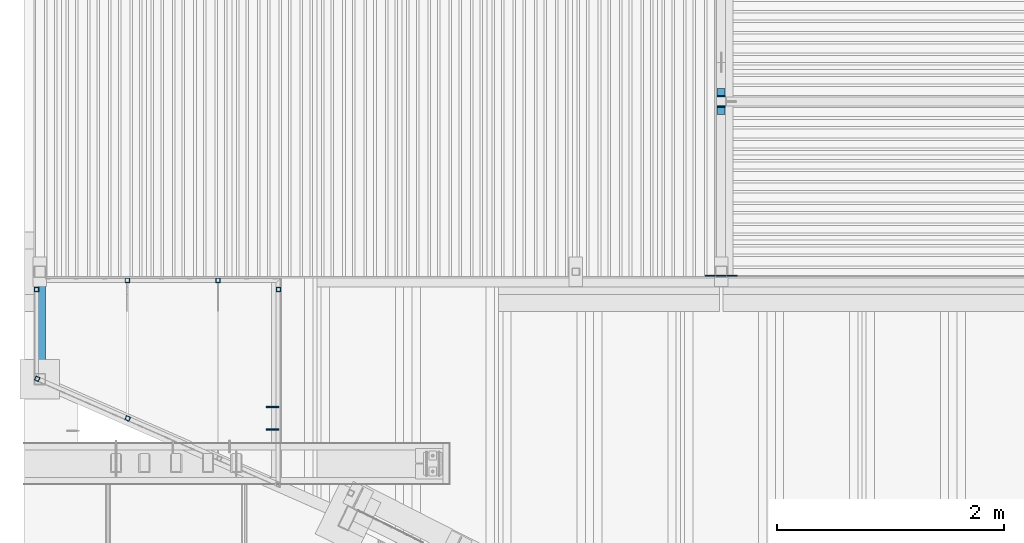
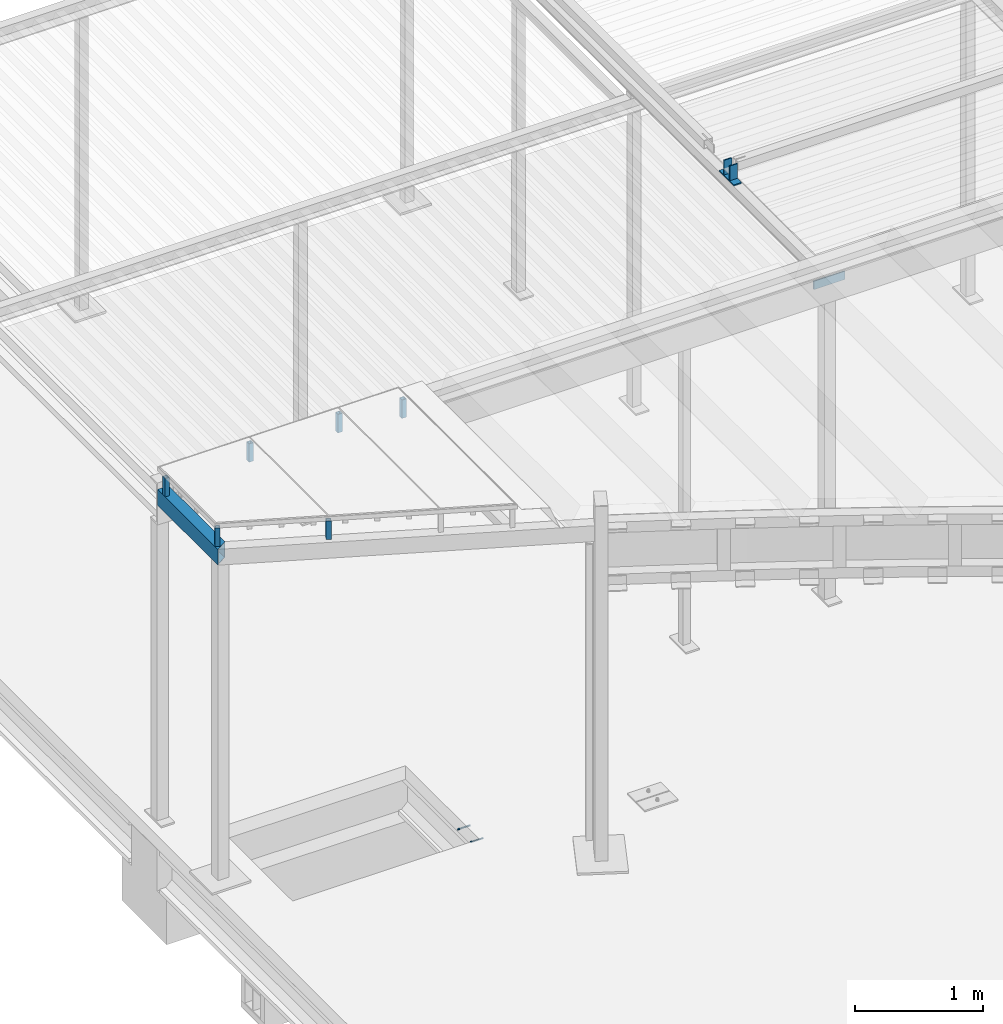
# One storey, part 28 of 98: 13 beams.
"""IFC2X3 building model written with IfcOpenShell, lengths in millimetres."""

from ifc_helpers import new_model, entity, si_unit, converted_unit, derived_unit, direction, frame, origin_with_axes, place, context, subcontext, project, spatial, faceted_brep, material, type_object, element, save


model = new_model("IFC2X3")

# Units and contexts
model_context = context("Model", 3, precision=0.01, world=frame((0.0, 4.29681676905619e-09, 0.0)), true_north=direction((4.01073788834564e-13, 1.0)))
plan_context = context("Plan", 3, precision=0.01, world=frame((0.0, 4.29681676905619e-09, 0.0)), true_north=direction((4.01073788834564e-13, 1.0)))
body_context = subcontext(model_context, "Body", "Model", "MODEL_VIEW")
ifc_project = project(units=[converted_unit("PLANEANGLEUNIT", "DEGREE", entity("IfcPositiveLengthMeasure", 0.0174532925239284), si_unit("PLANEANGLEUNIT", "RADIAN"), dimensions=[0, 0, 0, 0, 0, 0, 0]), si_unit("AREAUNIT", "SQUARE_METRE"), si_unit("LENGTHUNIT", "METRE", prefix="MILLI"), si_unit("MASSUNIT", "GRAM", prefix="KILO"), si_unit("POWERUNIT", "WATT"), si_unit("PRESSUREUNIT", "PASCAL"), si_unit("FORCEUNIT", "NEWTON", prefix="KILO"), si_unit("ELECTRICCURRENTUNIT", "AMPERE"), si_unit("THERMODYNAMICTEMPERATUREUNIT", "DEGREE_CELSIUS"), si_unit("TIMEUNIT", "SECOND"), si_unit("VOLUMEUNIT", "CUBIC_METRE"), derived_unit("LINEARVELOCITYUNIT", [(si_unit("LENGTHUNIT", "METRE"), 1), (si_unit("TIMEUNIT", "SECOND"), -1)]), derived_unit("VOLUMETRICFLOWRATEUNIT", [(si_unit("VOLUMEUNIT", "CUBIC_METRE"), 1), (si_unit("TIMEUNIT", "SECOND"), -1)]), derived_unit("THERMALTRANSMITTANCEUNIT", [(si_unit("POWERUNIT", "WATT"), 1), (si_unit("THERMODYNAMICTEMPERATUREUNIT", "KELVIN"), -1), (si_unit("AREAUNIT", "SQUARE_METRE"), -1)])], contexts=[model_context, plan_context])

# Site, building, storey
site_placement = place(None, frame((0.0, -4.29681676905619e-09, 0.0), z_axis=(0.0, 0.0, 1.0), x_axis=(1.0, 0.0, 0.0)))
site = spatial("IfcSite", under=ifc_project, at=site_placement, Name="Gardermoen", CompositionType="ELEMENT")
building_placement = place(site_placement, frame((0.0, 4.29681676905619e-09, 0.0), z_axis=(0.0, 0.0, 1.0), x_axis=(1.0, 0.0, 0.0)))
building = spatial("IfcBuilding", under=site, at=building_placement, Name="TS", CompositionType="ELEMENT")
storey_placement = place(building_placement, origin_with_axes())
storey = spatial("IfcBuildingStorey", under=building, at=storey_placement, Name="D", CompositionType="ELEMENT", Elevation=0.0)

# Beams
ifc_material = material(Name="STEEL/S355")
beam_type_1 = type_object("IfcBeamType", Name="PL10*70", PredefinedType="NOTDEFINED")
beam_1_placement = place(storey_placement, frame((519999.999847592, 415954.999738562, 207154.999928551), z_axis=(0.999999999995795, 0.0, 2.89999985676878e-06), x_axis=(2.89999985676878e-06, 0.0, -0.999999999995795)))
element("IfcBeam", 1, at=beam_1_placement, inside=storey, type_object=beam_type_1, material=ifc_material, Name="STÅLBJELKE", ObjectType="PL10*70", context=body_context, shape_type="Brep", body=[
    faceted_brep([(-2.3283064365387e-10, 5.0, -35.0), (2.3283064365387e-10, 5.0, 35.0000000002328), (139.999828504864, 5.0, 35.000000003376), (139.999828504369, 5.0, -34.9999999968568), (2.3283064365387e-10, -5.0, 35.0000000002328), (139.999828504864, -5.0, 35.000000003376), (-2.3283064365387e-10, -5.0, -35.0), (139.999828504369, -5.0, -34.9999999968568)], [[[0, 1, 2, 3]], [[1, 4, 5, 2]], [[4, 6, 7, 5]], [[6, 0, 3, 7]], [[5, 7, 3, 2]], [[6, 4, 1, 0]]]),
])
beam_2_placement = place(storey_placement, frame((520000.000074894, 415885.000270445, 207009.999925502), z_axis=(1.0, 0.0, 0.0), x_axis=(0.0, 1.0, 0.0)))
element("IfcBeam", 2, at=beam_2_placement, inside=storey, type_object=beam_type_1, material=ifc_material, Name="STÅLBJELKE", ObjectType="PL10*70", context=body_context, shape_type="Brep", body=[
    faceted_brep([(-2.3283064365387e-10, 5.0, -35.0), (2.3283064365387e-10, 5.0, 35.0000000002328), (229.999307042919, 5.0, 35.0000000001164), (229.999307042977, 5.0, -34.9999999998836), (2.3283064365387e-10, -5.0, 35.0000000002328), (229.999307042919, -5.0, 35.0000000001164), (-2.3283064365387e-10, -5.0, -35.0), (229.999307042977, -5.0, -34.9999999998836)], [[[0, 1, 2, 3]], [[1, 4, 5, 2]], [[4, 6, 7, 5]], [[6, 0, 3, 7]], [[5, 7, 3, 2]], [[6, 4, 1, 0]]]),
])
beam_3_placement = place(storey_placement, frame((519999.999847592, 416044.999738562, 207154.999929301), z_axis=(0.999999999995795, 0.0, 2.89999985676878e-06), x_axis=(2.89999985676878e-06, 0.0, -0.999999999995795)))
element("IfcBeam", 3, at=beam_3_placement, inside=storey, type_object=beam_type_1, material=ifc_material, Name="STÅLBJELKE", ObjectType="PL10*70", context=body_context, shape_type="Brep", body=[
    faceted_brep([(-2.3283064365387e-10, 5.0, -35.0), (2.3283064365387e-10, 5.0, 35.0000000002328), (139.999828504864, 5.0, 35.000000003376), (139.999828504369, 5.0, -34.9999999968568), (2.3283064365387e-10, -5.0, 35.0000000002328), (139.999828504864, -5.0, 35.000000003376), (-2.3283064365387e-10, -5.0, -35.0), (139.999828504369, -5.0, -34.9999999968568)], [[[0, 1, 2, 3]], [[1, 4, 5, 2]], [[4, 6, 7, 5]], [[6, 0, 3, 7]], [[5, 7, 3, 2]], [[6, 4, 1, 0]]]),
])
beam_type_2 = type_object("IfcBeamType", Name="D12", PredefinedType="NOTDEFINED")
for number, where, z_axis, x_axis in (
    (4, (515995.010346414, 413310.000023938, 203840.0), (0.0, -1.0, 0.0), (1.0, 0.0, 0.0)),
    (5, (515995.010346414, 413110.000023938, 203840.0), (0.0, -1.0, 0.0), (1.0, 0.0, 0.0)),
):
    element("IfcBeam", number, at=place(storey_placement, frame(where, z_axis=z_axis, x_axis=x_axis)), inside=storey, type_object=beam_type_2, material=ifc_material, Name="STÅLBJELKE", ObjectType="D12", context=body_context, shape_type="Brep", body=[
        faceted_brep([(-5.82076609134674e-11, -6.00000000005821, 0.0), (1.16415321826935e-10, -4.24264068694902, -4.24264068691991), (110.0, -4.24264068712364, -4.24264068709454), (110.0, -6.0, 0.0), (1.16415321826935e-10, 2.91038304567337e-10, -5.99999999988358), (110.0, 0.0, -6.0), (0.0, 4.24264068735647, -4.24264068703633), (110.0, 4.24264068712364, -4.24264068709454), (0.0, 5.99999999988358, 0.0), (110.0, 6.0, 0.0), (-2.3283064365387e-10, 4.2426406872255, 4.24264068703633), (110.0, 4.24264068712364, 4.24264068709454), (-3.49245965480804e-10, -5.82076609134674e-11, 5.99999999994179), (110.0, 0.0, 6.0), (-1.16415321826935e-10, -4.2426406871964, 4.24264068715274), (110.0, -4.24264068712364, 4.24264068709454)], [[[0, 1, 2, 3]], [[1, 4, 5, 2]], [[4, 6, 7, 5]], [[6, 8, 9, 7]], [[8, 10, 11, 9]], [[10, 12, 13, 11]], [[12, 14, 15, 13]], [[14, 0, 3, 15]], [[5, 7, 9, 11, 13, 15, 3, 2]], [[14, 12, 10, 8, 6, 4, 1, 0]]]),
    ])
beam_type_3 = type_object("IfcBeamType", Name="RHS40*4", PredefinedType="NOTDEFINED")
for number, where, z_axis, x_axis in (
    (6, (513969.998435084, 414344.981078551, 207100.0), (-0.999999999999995, -9.99999902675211e-08, 0.0), (0.0, 0.0, 1.0)),
    (7, (514773.373233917, 413208.229315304, 207100.0), (-0.913453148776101, 0.406943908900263, 0.0), (0.0, 0.0, 1.0)),
    (8, (516099.983186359, 414344.981078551, 207100.001742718), (-0.999999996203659, 0.0, 8.71359999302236e-05), (8.71359999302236e-05, 0.0, 0.999999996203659)),
    (9, (515569.998435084, 414424.981078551, 207100.0), (-0.999999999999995, -9.99999902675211e-08, 0.0), (0.0, 0.0, 1.0)),
    (10, (514769.998435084, 414424.981078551, 207100.0), (-0.999999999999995, -9.99999902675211e-08, 0.0), (0.0, 0.0, 1.0)),
    (11, (513976.314526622, 413557.170090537, 207100.0), (-0.913453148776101, 0.406943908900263, 0.0), (0.0, 0.0, 1.0)),
):
    element("IfcBeam", number, at=place(storey_placement, frame(where, z_axis=z_axis, x_axis=x_axis)), inside=storey, type_object=beam_type_3, material=ifc_material, Name="STÅLBJELKE", ObjectType="RHS40*4", context=body_context, shape_type="Brep", body=[
        faceted_brep([(0.0, 16.0, -16.0), (0.0, -16.0000000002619, -16.0000000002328), (175.0, -16.0, -16.0), (175.0, 16.0, -16.0), (0.0, -15.999999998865, 16.0), (175.0, -16.0, 16.0), (0.0, 16.0000000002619, 16.0000000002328), (175.0, 16.0, 16.0), (0.0, 20.0, -20.0), (0.0, 20.0, 20.0), (175.0, 20.0, 20.0), (175.0, 20.0, -20.0), (0.0, -19.9999999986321, 20.0), (175.0, -20.0, 20.0), (0.0, -20.0, -20.0), (175.0, -20.0, -20.0)], [[[0, 1, 2, 3]], [[1, 4, 5, 2]], [[4, 6, 7, 5]], [[6, 0, 3, 7]], [[8, 9, 10, 11]], [[9, 12, 13, 10]], [[12, 14, 15, 13]], [[14, 8, 11, 15]], [[13, 15, 11, 10], [5, 7, 3, 2]], [[14, 12, 9, 8], [6, 4, 1, 0]]]),
    ])
beam_type_4 = type_object("IfcBeamType", Name="PL80*10", PredefinedType="NOTDEFINED")
beam_4_placement = place(storey_placement, frame((520140.000046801, 414463.989125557, 206959.999718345), z_axis=(0.0, 0.0, -1.0), x_axis=(-0.999999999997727, -2.13200007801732e-06, 0.0)))
element("IfcBeam", 12, at=beam_4_placement, inside=storey, type_object=beam_type_4, material=ifc_material, Name="STÅLBJELKE", ObjectType="PL80*10", context=body_context, shape_type="Brep", body=[
    faceted_brep([(0.0, 5.00000000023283, -39.9999999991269), (0.0, 4.99999999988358, 39.9999999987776), (279.9999720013, 4.99999999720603, 40.0), (279.9999720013, 4.99999999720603, -40.0), (0.0, -5.00000000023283, 39.9999999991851), (279.999972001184, -5.00000000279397, 40.0), (0.0, -4.99999999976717, -39.9999999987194), (279.999972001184, -5.00000000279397, -40.0)], [[[0, 1, 2, 3]], [[1, 4, 5, 2]], [[4, 6, 7, 5]], [[6, 0, 3, 7]], [[5, 7, 3, 2]], [[6, 4, 1, 0]]]),
])
beam_type_5 = type_object("IfcBeamType", Name="RHS150*100*6", PredefinedType="NOTDEFINED")
beam_5_placement = place(storey_placement, frame((513999.998435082, 413465.061078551, 207025.0), z_axis=(0.0, 0.0, 1.0), x_axis=(0.0, 1.0, 0.0)))
element("IfcBeam", 13, at=beam_5_placement, inside=storey, type_object=beam_type_5, material=ifc_material, Name="STÅLBJELKE", ObjectType="RHS150*100*6", context=body_context, shape_type="Brep", body=[
    faceted_brep([(42.6462167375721, 44.0, -69.0), (100.076822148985, -44.0, -69.0), (979.919999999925, -44.0, -69.0), (979.919999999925, 44.0, -69.0), (100.076822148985, -44.0, 69.0), (979.919999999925, -44.0, 69.0), (42.6462167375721, 44.0, 69.0), (979.919999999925, 44.0, 69.0), (38.730493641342, 50.0, -75.0), (38.730493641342, 50.0, 75.0), (979.919999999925, 50.0, 75.0), (979.919999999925, 50.0, -75.0), (103.992545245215, -50.0, 75.0), (979.919999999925, -50.0, 75.0), (103.992545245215, -50.0, -75.0), (979.919999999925, -50.0, -75.0)], [[[0, 1, 2, 3]], [[1, 4, 5, 2]], [[4, 6, 7, 5]], [[6, 0, 3, 7]], [[8, 9, 10, 11]], [[9, 12, 13, 10]], [[12, 14, 15, 13]], [[14, 8, 11, 15]], [[13, 15, 11, 10], [5, 7, 3, 2]], [[14, 12, 9, 8], [6, 4, 1, 0]]]),
])

save(model, "model.ifc")
